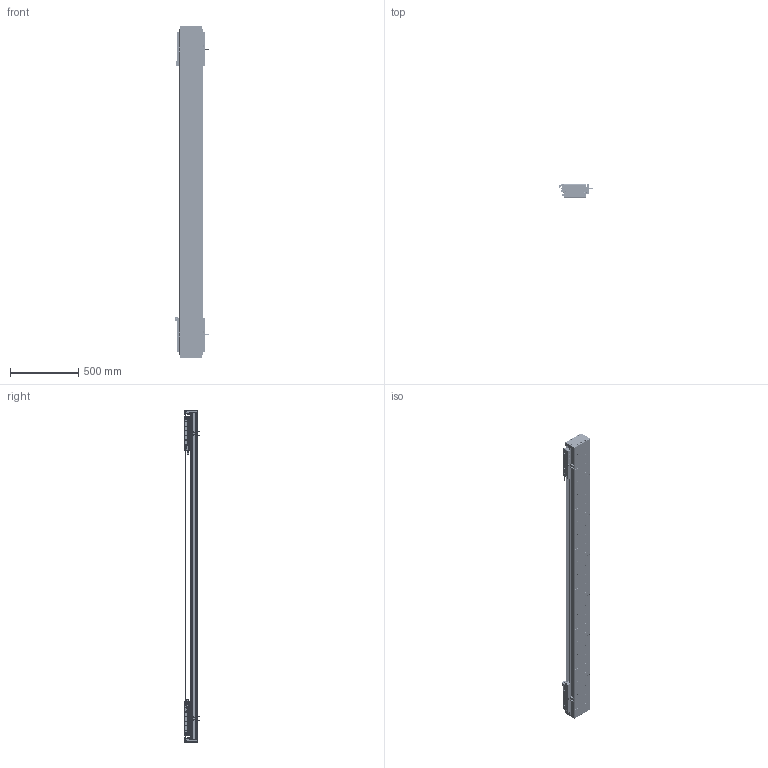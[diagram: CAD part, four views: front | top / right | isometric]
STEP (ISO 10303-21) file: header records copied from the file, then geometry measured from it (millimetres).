
FILE_DESCRIPTION (( 'STEP AP203' ), '1' );
FILE_NAME ('DA-C165-2-C3-T1820-C010-0.2 直线电机.STEP', '2023-06-13T09:21:27', ( '微软用户' ), ( '微软中国' ), 'SwSTEP 2.0', 'SolidWorks 2019', '' );
FILE_SCHEMA (( 'CONFIG_CONTROL_DESIGN' ));
Length unit declared in the file: millimetre
Products named in the file (22): IU-CU165-L 菁釱絳寢; 复件 六角薄螺母 M3^DA-C165-C3-T-C010-0.2-N 直线电机_GB_FASTENER_NUT_STNAB M3-C; 葩璃 CKM01-W075-TRL^DA-C165-C3-T-C010-0.2-N 眻盄萇儂; 复件 DA165-GYP-00 光电感应片^DA-C165-C3-T-C010-0.2-N 直线电机; 复件 DKW-HXJ-JY-00 缓冲橡胶^DA-C165-C3-T-C010-0.2-N 直线电机; 复件 DA165-GDYK-00 钢带压块^复件 CU165钢带组件_DA-C165-C3-T-C010-0.2-N 直线电机; 复件 DA126-GYP-ZJ-00 中间光电感应片^DA-C165-C3-T-C010-0.2-N 直线电机; 葩璃 PM-Y45^DA-C165-C3-T-C010-0.2-N 眻盄萇儂; DA-C165-2-C3-T1820-C010-0.2 眻盄萇儂; 复件 DA95-HXJ-00 缓冲橡胶^DA-C165-C3-T-C010-0.2-N 直线电机; 复件 DA165-GD-1860-002-00 钢带盖板^复件 CU165钢带组件_DA-C165-C3-T-C010-0.2-N 直线电机; 复件 DA165-GDLK-00 钢带拉块^复件 CU165钢带组件_DA-C165-C3-T-C010-0.2-N 直线电机; 葩璃 DA95-GT-T-00^IU-CU165-L 菁釱絳寢_T; 复件 XD-U-02L 磁栅尺^DA-C165-C3-T-C010-0.2-N 直线电机_T; 葩璃 PM-T45^DA-C165-C3-T-C010-0.2-N 眻盄萇儂; 复件 CU165 底座^IU-CU165-L 底座导轨_L2400; 复件 CU165钢带组件^DA-C165-C3-T-C010-0.2-N 直线电机; 复件 DMA-010-0.2 读数头^DA-C165-C3-T-C010-0.2-N 直线电机; 复件 DA165-GD-DG-H-00 端盖^复件 CU165钢带组件_DA-C165-C3-T-C010-0.2-N 直线电机; 珨极趙賑雄怢啣C3-wf; 葩璃 CKM03-W075-C1C2-TP-3.0^DA-C165-C3-T-C010-0.2-N 眻盄萇儂; 复件 66338-1000-006-00 光电感应块^DA-C165-C3-T-C010-0.2-N 直线电机
Assembly tree (45 placements, depth 3):
  DA-C165-2-C3-T1820-C010-0.2 眻盄萇儂
    IU-CU165-L 菁釱絳寢
      复件 CU165 底座^IU-CU165-L 底座导轨_L2400
      葩璃 DA95-GT-T-00^IU-CU165-L 菁釱絳寢_T  x4
    复件 XD-U-02L 磁栅尺^DA-C165-C3-T-C010-0.2-N 直线电机_T
    葩璃 PM-T45^DA-C165-C3-T-C010-0.2-N 眻盄萇儂  x4
    葩璃 CKM01-W075-TRL^DA-C165-C3-T-C010-0.2-N 眻盄萇儂
    复件 CU165钢带组件^DA-C165-C3-T-C010-0.2-N 直线电机
      复件 DA165-GD-DG-H-00 端盖^复件 CU165钢带组件_DA-C165-C3-T-C010-0.2-N 直线电机  x2
      复件 DA165-GDYK-00 钢带压块^复件 CU165钢带组件_DA-C165-C3-T-C010-0.2-N 直线电机  x2
      复件 DA165-GD-1860-002-00 钢带盖板^复件 CU165钢带组件_DA-C165-C3-T-C010-0.2-N 直线电机
      复件 DA165-GDLK-00 钢带拉块^复件 CU165钢带组件_DA-C165-C3-T-C010-0.2-N 直线电机  x2
    复件 DA95-HXJ-00 缓冲橡胶^DA-C165-C3-T-C010-0.2-N 直线电机  x4
    复件 DMA-010-0.2 读数头^DA-C165-C3-T-C010-0.2-N 直线电机  x2
    复件 DA165-GYP-00 光电感应片^DA-C165-C3-T-C010-0.2-N 直线电机  x2
    复件 66338-1000-006-00 光电感应块^DA-C165-C3-T-C010-0.2-N 直线电机
    葩璃 PM-Y45^DA-C165-C3-T-C010-0.2-N 眻盄萇儂
    复件 DA126-GYP-ZJ-00 中间光电感应片^DA-C165-C3-T-C010-0.2-N 直线电机
    葩璃 CKM03-W075-C1C2-TP-3.0^DA-C165-C3-T-C010-0.2-N 眻盄萇儂  x2
    复件 DKW-HXJ-JY-00 缓冲橡胶^DA-C165-C3-T-C010-0.2-N 直线电机  x2
    复件 六角薄螺母 M3^DA-C165-C3-T-C010-0.2-N 直线电机_GB_FASTENER_NUT_STNAB M3-C  x8
    珨极趙賑雄怢啣C3-wf  x2
Bounding box: 247.2 x 111.45 x 2440 mm (x, y, z)
Volume: 16386792.7 mm3; surface area: 4580644 mm2
Topology: 121 solids, 221 shells, 6461 faces, 17512 edges, 10874 vertices
Faces by surface type: cylinder 3382, plane 2011, cone 980, torus 80, sphere 8
Entity records: 143110 total; most frequent: CARTESIAN_POINT 37557, ORIENTED_EDGE 21608, DIRECTION 21342, EDGE_CURVE 10804, AXIS2_PLACEMENT_3D 8137, VERTEX_POINT 7028, LINE 5068, VECTOR 5068
